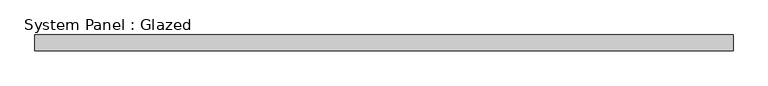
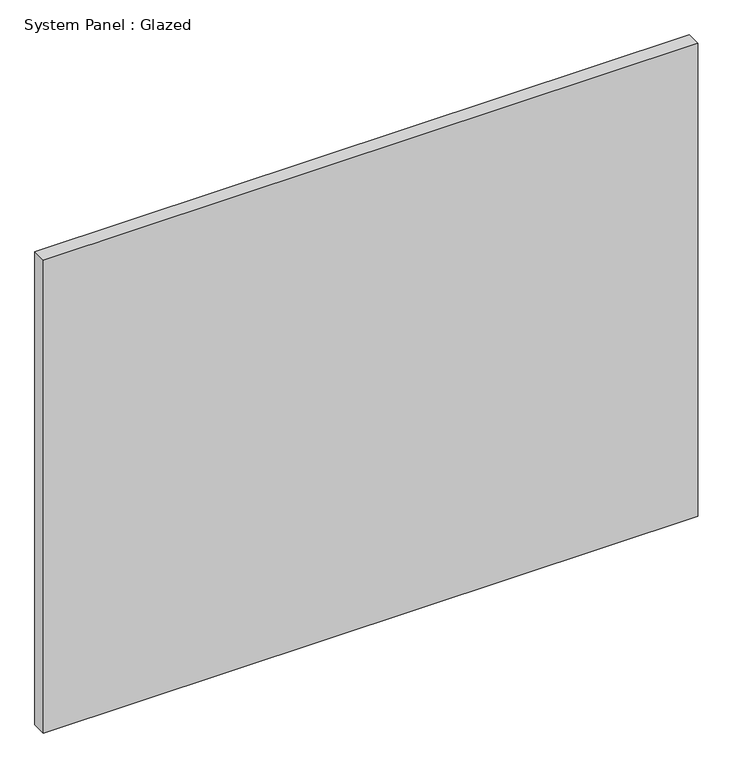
"""IFC4 building model written with IfcOpenShell, lengths in millimetres: plate geometry, System Panel : Glazed."""

from ifc_helpers import new_model, si_unit, origin, origin_with_axes, place, context, project, spatial, polyline, outline, extrude, source, transform, mapped, element, save


def system_panel_glazed_78fc56a8(model_context):
    return source(origin(), model_context, "Body", "SweptSolid", [
        extrude(outline(polyline([(565.15, 19.05), (-565.15, 19.05), (-565.15, 44.45), (565.15, 44.45), (565.15, 19.05)])), origin_with_axes(), (0.0, 0.0, 1.0), 863.6),
    ])


if __name__ == "__main__":
    model = new_model("IFC4")
    model_context = context("Model", 3, world=origin())
    ifc_project = project(units=[si_unit("LENGTHUNIT", "METRE", prefix="MILLI")], contexts=[model_context])
    site = spatial("IfcSite", under=ifc_project)
    building = spatial("IfcBuilding", under=site)
    placement = place(None, origin())
    system_panel_glazed_shape = system_panel_glazed_78fc56a8(model_context)
    element("IfcPlate", 1, ObjectType="System Panel : Glazed", at=placement, inside=building, context=model_context, shape_type="MappedRepresentation", body=[
        mapped(system_panel_glazed_shape, transform((0.0, 0.0, 0.0), x_axis=(1.0, 0.0, 0.0), y_axis=(0.0, 1.0, 0.0), z_axis=(0.0, 0.0, 1.0))),
    ])
    save(model, "model.ifc")
